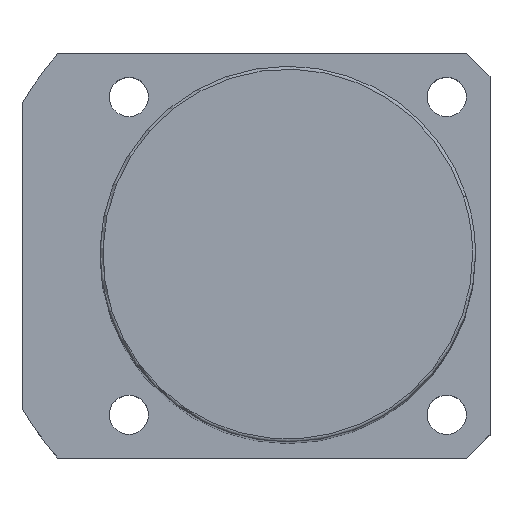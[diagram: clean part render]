
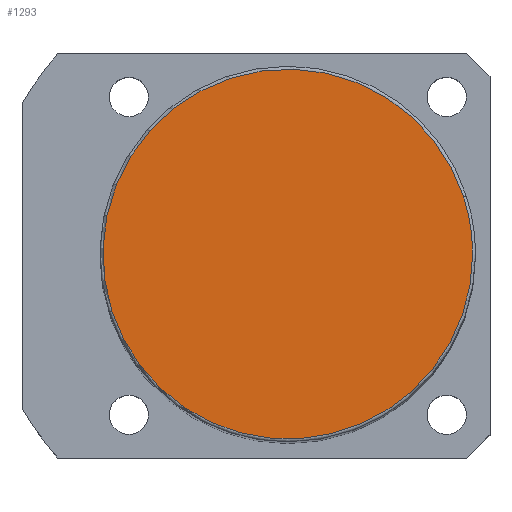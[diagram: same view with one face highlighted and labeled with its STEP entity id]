
A CAD part, top view. The second image highlights one B-rep face of the part: STEP entity #1293.
In plain terms, the highlighted planar face has unit normal (0, 0, 1).
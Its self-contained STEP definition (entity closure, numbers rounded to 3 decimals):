
#1259=CARTESIAN_POINT('',(32.0,0.0,191.0));
#1260=VERTEX_POINT('',#1259);
#1261=CARTESIAN_POINT('',(30.434,9.889,191.0));
#1262=VERTEX_POINT('',#1261);
#1263=CARTESIAN_POINT('',(0.0,0.0,191.0));
#1264=DIRECTION('',(0.0,0.0,1.0));
#1265=DIRECTION('',(1.0,0.0,0.0));
#1266=AXIS2_PLACEMENT_3D('',#1263,#1264,#1265);
#1267=CIRCLE('',#1266,32.0);
#1268=EDGE_CURVE('no 1838',#1260,#1262,#1267,.T.);
#1269=ORIENTED_EDGE('',*,*,#1268,.T.);
#1270=CARTESIAN_POINT('',(-30.434,-9.889,191.0));
#1271=VERTEX_POINT('',#1270);
#1272=CARTESIAN_POINT('',(0.0,0.0,191.0));
#1273=DIRECTION('',(0.0,0.0,1.0));
#1274=DIRECTION('',(1.0,0.0,0.0));
#1275=AXIS2_PLACEMENT_3D('',#1272,#1273,#1274);
#1276=CIRCLE('',#1275,32.0);
#1277=EDGE_CURVE('no 1844',#1262,#1271,#1276,.T.);
#1278=ORIENTED_EDGE('',*,*,#1277,.T.);
#1279=CARTESIAN_POINT('',(0.0,0.0,191.0));
#1280=DIRECTION('',(0.0,0.0,1.0));
#1281=DIRECTION('',(1.0,0.0,0.0));
#1282=AXIS2_PLACEMENT_3D('',#1279,#1280,#1281);
#1283=CIRCLE('',#1282,32.0);
#1284=EDGE_CURVE('no 1848',#1271,#1260,#1283,.T.);
#1285=ORIENTED_EDGE('',*,*,#1284,.T.);
#1286=EDGE_LOOP('',(#1269,#1278,#1285));
#1287=FACE_OUTER_BOUND('',#1286,.T.);
#1288=CARTESIAN_POINT('',(0.0,0.0,191.0));
#1289=DIRECTION('',(0.0,0.0,1.0));
#1290=DIRECTION('',(1.0,0.0,0.0));
#1291=AXIS2_PLACEMENT_3D('',#1288,#1289,#1290);
#1292=PLANE('',#1291);
#1293=ADVANCED_FACE('no 1829',(#1287),#1292,.T.);
